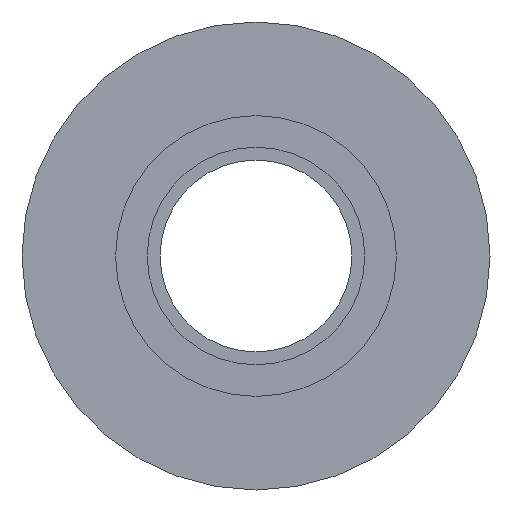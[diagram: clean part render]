
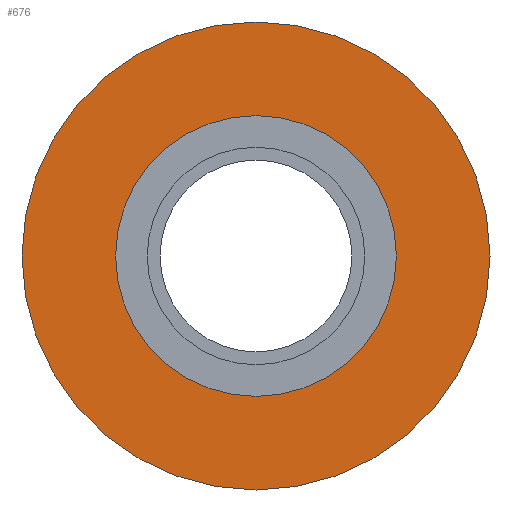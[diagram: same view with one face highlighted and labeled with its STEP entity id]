
A CAD part, left-side view. The second image highlights one B-rep face of the part: STEP entity #676.
In plain terms, the highlighted planar face has unit normal (-1, 0, 0).
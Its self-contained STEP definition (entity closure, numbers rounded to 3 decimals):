
#449=CARTESIAN_POINT('',(-2.,0.,0.));
#450=DIRECTION('',(-1.,0.,0.));
#451=DIRECTION('',(0.,0.,-1.));
#452=AXIS2_PLACEMENT_3D('',#449,#450,#451);
#457=CARTESIAN_POINT('',(-2.,0.,0.));
#458=DIRECTION('',(1.,0.,0.));
#459=DIRECTION('',(0.,0.,-1.));
#460=AXIS2_PLACEMENT_3D('',#457,#458,#459);
#465=CARTESIAN_POINT('',(-2.,0.,0.));
#466=DIRECTION('',(1.,0.,0.));
#467=DIRECTION('',(0.,0.,-1.));
#468=AXIS2_PLACEMENT_3D('',#465,#466,#467);
#487=CARTESIAN_POINT('',(-2.,0.,0.));
#488=DIRECTION('',(-1.,0.,0.));
#489=DIRECTION('',(0.,0.,-1.));
#490=AXIS2_PLACEMENT_3D('',#487,#488,#489);
#520=CARTESIAN_POINT('',(-2.,0.,-10.));
#522=VERTEX_POINT('',#520);
#523=CARTESIAN_POINT('',(-2.,0.,-6.));
#525=VERTEX_POINT('',#523);
#536=CARTESIAN_POINT('',(-2.,0.,10.));
#538=VERTEX_POINT('',#536);
#539=CARTESIAN_POINT('',(-2.,0.,6.));
#541=VERTEX_POINT('',#539);
#661=CARTESIAN_POINT('',(-2.,0.,0.));
#662=DIRECTION('',(1.,0.,0.));
#663=DIRECTION('',(0.,0.,1.));
#664=AXIS2_PLACEMENT_3D('',#661,#662,#663);
#665=PLANE('',#664);
#666=ORIENTED_EDGE('',*,*,#654,.F.);
#667=ORIENTED_EDGE('',*,*,#643,.T.);
#668=EDGE_LOOP('',(#666,#667));
#669=FACE_OUTER_BOUND('',#668,.F.);
#671=ORIENTED_EDGE('',*,*,#670,.F.);
#673=ORIENTED_EDGE('',*,*,#672,.T.);
#674=EDGE_LOOP('',(#671,#673));
#675=FACE_BOUND('',#674,.F.);
#453=CIRCLE('',#452,10.);
#461=CIRCLE('',#460,10.);
#469=CIRCLE('',#468,6.);
#491=CIRCLE('',#490,6.);
#643=EDGE_CURVE('',#522,#538,#461,.T.);
#654=EDGE_CURVE('',#522,#538,#453,.T.);
#670=EDGE_CURVE('',#525,#541,#469,.T.);
#672=EDGE_CURVE('',#525,#541,#491,.T.);
#676=ADVANCED_FACE('',(#669,#675),#665,.F.);
